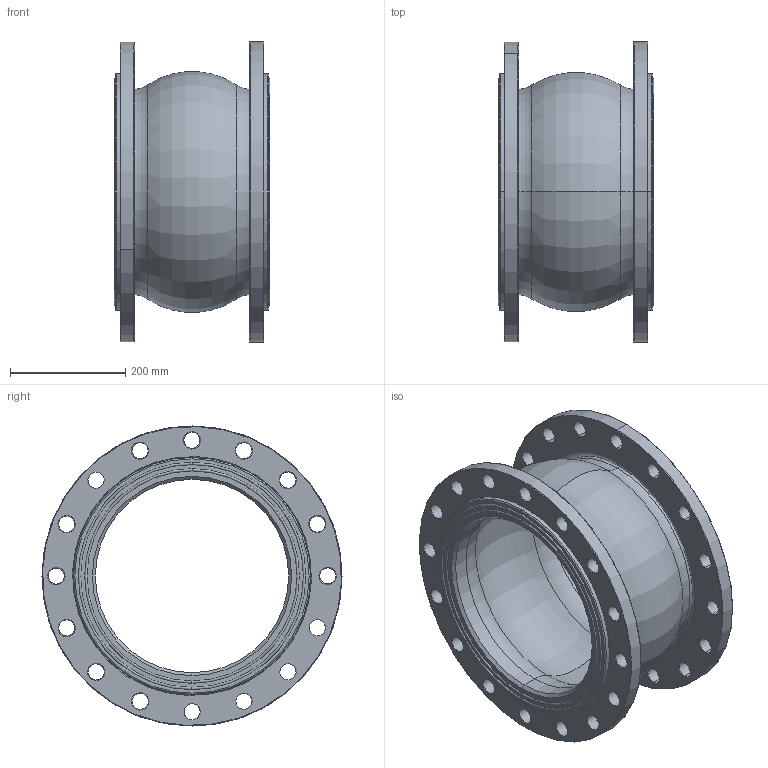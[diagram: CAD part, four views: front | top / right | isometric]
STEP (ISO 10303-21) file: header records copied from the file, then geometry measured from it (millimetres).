
FILE_DESCRIPTION (( 'STEP AP203' ), '1' );
FILE_NAME ('DN350 PN16.STEP', '2026-07-24T03:43:36', ( 'Windows 蚚誧' ), ( '' ), 'SwSTEP 2.0', 'SolidWorks 2018', '' );
FILE_SCHEMA (( 'CONFIG_CONTROL_DESIGN' ));
Length unit declared in the file: millimetre
Products named in the file (3): DN350 PN16; DN350
Assembly tree (3 placements, depth 2):
  DN350 PN16
    DN350
    DN350 PN16  x2
Bounding box: 269 x 520 x 520 mm (x, y, z)
Volume: 9058545.6 mm3; surface area: 1480452.7 mm2
Topology: 3 solids, 3 shells, 268 faces, 600 edges, 348 vertices
Faces by surface type: torus 152, cylinder 92, plane 16, cone 8
Entity records: 5037 total; most frequent: DIRECTION 1012, CARTESIAN_POINT 746, ORIENTED_EDGE 728, AXIS2_PLACEMENT_3D 476, EDGE_CURVE 364, CIRCLE 304, VERTEX_POINT 210, EDGE_LOOP 210
